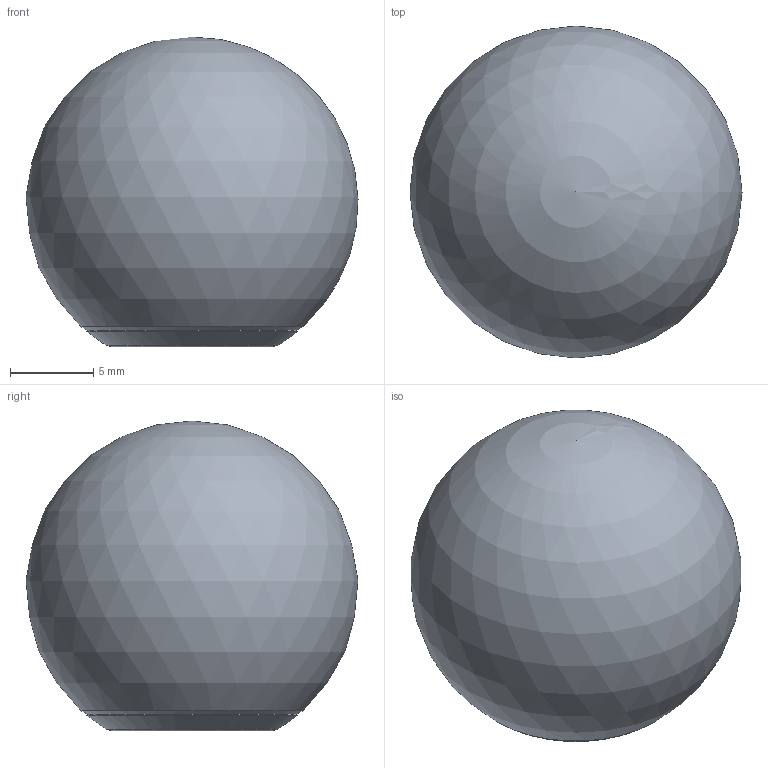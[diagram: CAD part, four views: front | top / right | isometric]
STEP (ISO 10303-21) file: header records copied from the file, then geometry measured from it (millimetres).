
FILE_DESCRIPTION(('Open CASCADE Model'),'2;1');
FILE_NAME('FL-BALL-S-knob-20','2026-10-19T21:24:16',('Author'),( 'Open CASCADE'),'Open CASCADE STEP processor 8.0','build123d', 'Unknown');
FILE_SCHEMA(('AUTOMOTIVE_DESIGN { 1 0 10303 214 1 1 1 1 }'));
Length unit declared in the file: millimetre
Products named in the file (2): FL-BALL-S-knob-20; brass_FL-BALLS20__k
Assembly tree (1 placements, depth 2):
  FL-BALL-S-knob-20
    brass_FL-BALLS20__k
Bounding box: 19.99 x 19.99 x 18.66 mm (x, y, z)
Volume: 4023.8 mm3; surface area: 1379.2 mm2
Topology: 1 solids, 1 shells, 10 faces, 17 edges, 10 vertices
Faces by surface type: plane 3, sphere 2, cone 2, cylinder 2, bspline 1
Full cylindrical faces by diameter (mm): 3.3 x1, 5.1 x1
Entity records: 570 total; most frequent: CARTESIAN_POINT 188, DIRECTION 72, ORIENTED_EDGE 32, PCURVE 32, DEFINITIONAL_REPRESENTATION 32, LINE 28, VECTOR 28, AXIS2_PLACEMENT_3D 20
